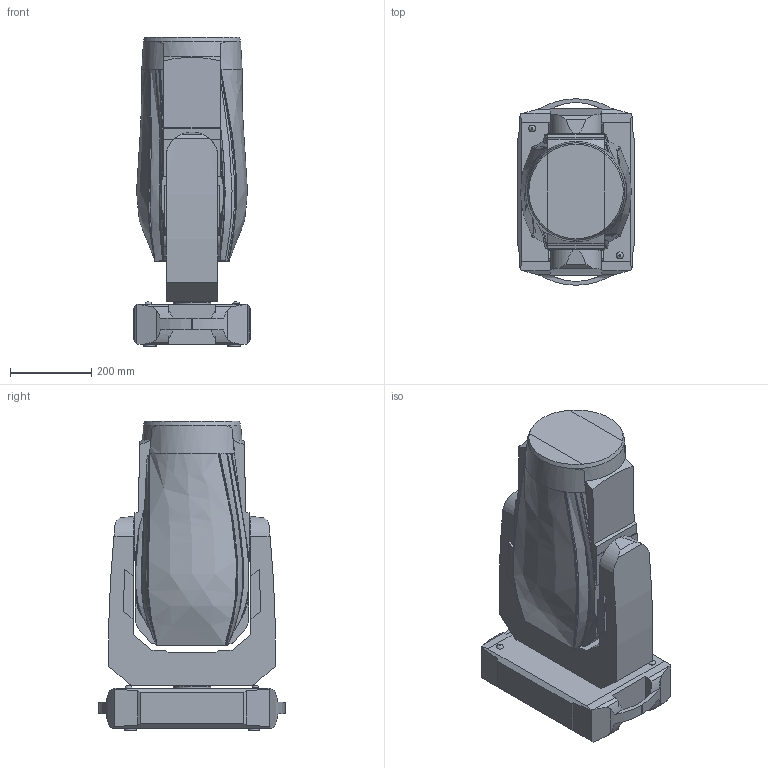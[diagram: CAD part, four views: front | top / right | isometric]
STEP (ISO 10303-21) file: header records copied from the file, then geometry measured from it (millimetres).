
FILE_DESCRIPTION(/* description */ ('Unknown'),/* implementation_level */ '2;1');
FILE_NAME(/* name */ '3D-iEsprite LTL',/* time_stamp */ '2025-01-15T14:49:12+01:00',/* author */ ('Unknown'),/* organization */ ('Unknown'),/* preprocessor_version */ 'ST-DEVELOPER v19.4',/* originating_system */ 'Solid Edge',/* authorisation */ 'Unknown');
FILE_SCHEMA (('AUTOMOTIVE_DESIGN {1 0 10303 214 3 1 1}'));
Length unit declared in the file: millimetre
Products named in the file (4): 3D-iEsprite LTL; iEsprite LT-Base; iEsprite LT-Arm; iEsprite LT-Head
Assembly tree (3 placements, depth 2):
  3D-iEsprite LTL
    iEsprite LT-Base
    iEsprite LT-Arm
    iEsprite LT-Head
Bounding box: 289.15 x 458.01 x 760.39 mm (x, y, z)
Volume: 51898654.2 mm3; surface area: 1418949.8 mm2
Topology: 3 solids, 3 shells, 241 faces, 672 edges, 447 vertices
Faces by surface type: plane 109, bspline 79, cylinder 46, cone 5, torus 2
Full cylindrical faces by diameter (mm): 17 x1, 27.533 x2, 30.265 x2, 49.847 x2, 49.99 x1, 91.8 x1, 93 x1
Entity records: 9932 total; most frequent: CARTESIAN_POINT 4322, ORIENTED_EDGE 1300, DIRECTION 876, EDGE_CURVE 650, VERTEX_POINT 438, AXIS2_PLACEMENT_3D 303, LINE 270, VECTOR 270
